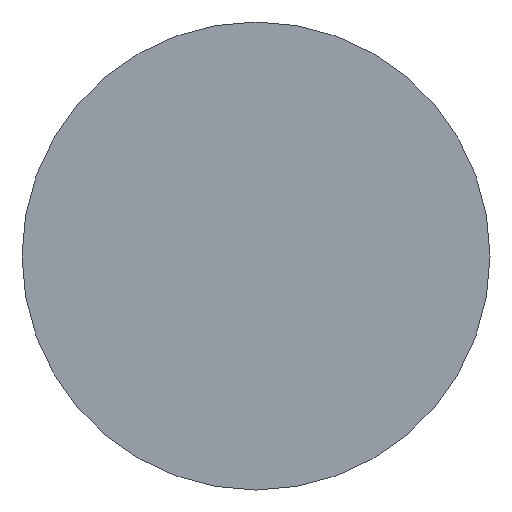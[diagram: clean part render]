
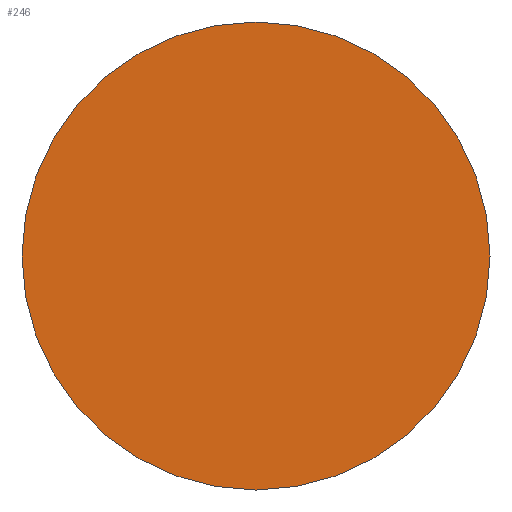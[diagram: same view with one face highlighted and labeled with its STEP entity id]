
A CAD part, left-side view. The second image highlights one B-rep face of the part: STEP entity #246.
In plain terms, the highlighted planar face has unit normal (-1, 0, 0).
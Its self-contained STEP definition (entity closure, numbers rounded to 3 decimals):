
#5 = AXIS2_PLACEMENT_3D ( 'NONE', #126, #216, #103 ) ;
#64 = DIRECTION ( 'NONE',  ( -1., 0., 0. ) ) ;
#81 = EDGE_CURVE ( 'NONE', #224, #281, #201, .T. ) ;
#95 = CIRCLE ( 'NONE', #112, 1.1 ) ;
#96 = DIRECTION ( 'NONE',  ( 0., 0., 1. ) ) ;
#103 = DIRECTION ( 'NONE',  ( 0., 0., -1. ) ) ;
#108 = CARTESIAN_POINT ( 'NONE',  ( 0., 0., 1.1 ) ) ;
#112 = AXIS2_PLACEMENT_3D ( 'NONE', #202, #64, #291 ) ;
#118 = FACE_OUTER_BOUND ( 'NONE', #132, .T. ) ;
#122 = DIRECTION ( 'NONE',  ( -1., 0., 0. ) ) ;
#123 = CARTESIAN_POINT ( 'NONE',  ( 0., 0., -1.1 ) ) ;
#126 = CARTESIAN_POINT ( 'NONE',  ( 0., 0., 0. ) ) ;
#132 = EDGE_LOOP ( 'NONE', ( #240, #169 ) ) ;
#169 = ORIENTED_EDGE ( 'NONE', *, *, #81, .T. ) ;
#201 = CIRCLE ( 'NONE', #218, 1.1 ) ;
#202 = CARTESIAN_POINT ( 'NONE',  ( 0., 0., 0. ) ) ;
#212 = CARTESIAN_POINT ( 'NONE',  ( 0., 0., 0. ) ) ;
#216 = DIRECTION ( 'NONE',  ( 1., 0., 0. ) ) ;
#218 = AXIS2_PLACEMENT_3D ( 'NONE', #212, #122, #96 ) ;
#224 = VERTEX_POINT ( 'NONE', #123 ) ;
#240 = ORIENTED_EDGE ( 'NONE', *, *, #251, .T. ) ;
#246 = ADVANCED_FACE ( 'NONE', ( #118 ), #284, .F. ) ;
#251 = EDGE_CURVE ( 'NONE', #281, #224, #95, .T. ) ;
#281 = VERTEX_POINT ( 'NONE', #108 ) ;
#284 = PLANE ( 'NONE',  #5 ) ;
#291 = DIRECTION ( 'NONE',  ( 0., 0., 1. ) ) ;
